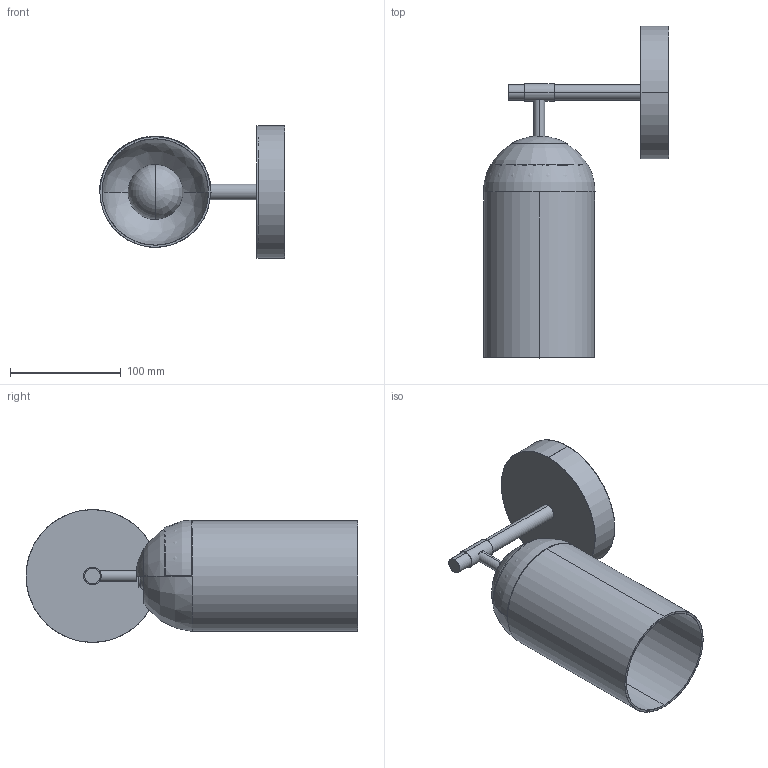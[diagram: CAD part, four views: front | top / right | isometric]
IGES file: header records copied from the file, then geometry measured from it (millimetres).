
Start section: SolidWorks IGES file using analytic representation for surfaces
Global section: file name: F:\燠隴矨\3D\2026-4\Pillar Alabaster Wall Sconce.IGS,15; native system: HSolidWorks 2022; preprocessor: SolidWorks 2022; author: MyPC; date: 260423.145237; units: millimetre
Bounding box: 167.49 x 300 x 120 mm (x, y, z)
Surface area: 199704.6 mm2 (no closed solid volume)
Topology: 0 solids, 0 shells, 116 faces, 1374 edges, 1369 vertices
Faces by surface type: revolution 74, bspline 42
